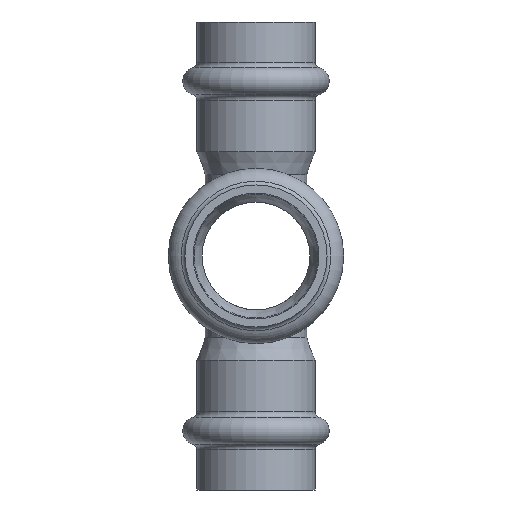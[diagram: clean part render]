
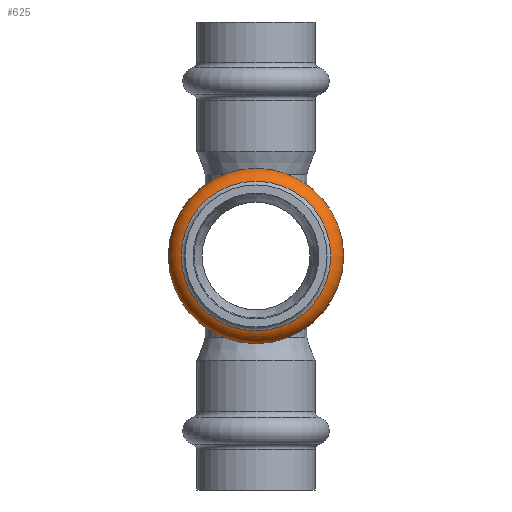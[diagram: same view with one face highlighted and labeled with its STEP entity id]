
A CAD part, front view. The second image highlights one B-rep face of the part: STEP entity #625.
In plain terms, the highlighted toroidal (fillet/blend) face has major radius 12.116 mm and minor radius 3.434 mm.
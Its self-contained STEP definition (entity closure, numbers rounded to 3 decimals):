
#625=ADVANCED_FACE('',(#1101,#1103),#1105,.T.);
#1101=FACE_OUTER_BOUND('',#1102,.T.);
#1102=EDGE_LOOP('',(#1387));
#1103=FACE_OUTER_BOUND('',#1104,.T.);
#1104=EDGE_LOOP('',(#1388));
#1105=TOROIDAL_SURFACE('',#1106,12.116,3.434);
#1106=AXIS2_PLACEMENT_3D('',#1107,#1108,#1109);
#1107=CARTESIAN_POINT('',(0.,-31.1,0.));
#1108=DIRECTION('',(0.,1.,0.));
#1109=DIRECTION('',(0.,0.,1.));
#1387=ORIENTED_EDGE('',*,*,#1463,.F.);
#1388=ORIENTED_EDGE('',*,*,#1467,.T.);
#1463=EDGE_CURVE('',#1546,#1546,#1547,.T.);
#1467=EDGE_CURVE('',#1554,#1554,#1555,.T.);
#1546=VERTEX_POINT('',#2720);
#1547=CIRCLE('',#2721,13.265);
#1554=VERTEX_POINT('',#2740);
#1555=CIRCLE('',#2741,13.265);
#2720=CARTESIAN_POINT('',(0.,-27.864,13.265));
#2721=AXIS2_PLACEMENT_3D('',#2722,#2723,#2724);
#2722=CARTESIAN_POINT('',(0.,-27.864,0.));
#2723=DIRECTION('',(0.,1.,0.));
#2724=DIRECTION('',(0.,0.,1.));
#2740=CARTESIAN_POINT('',(0.,-34.336,13.265));
#2741=AXIS2_PLACEMENT_3D('',#2742,#2743,#2744);
#2742=CARTESIAN_POINT('',(0.,-34.336,0.));
#2743=DIRECTION('',(0.,1.,0.));
#2744=DIRECTION('',(0.,0.,1.));
